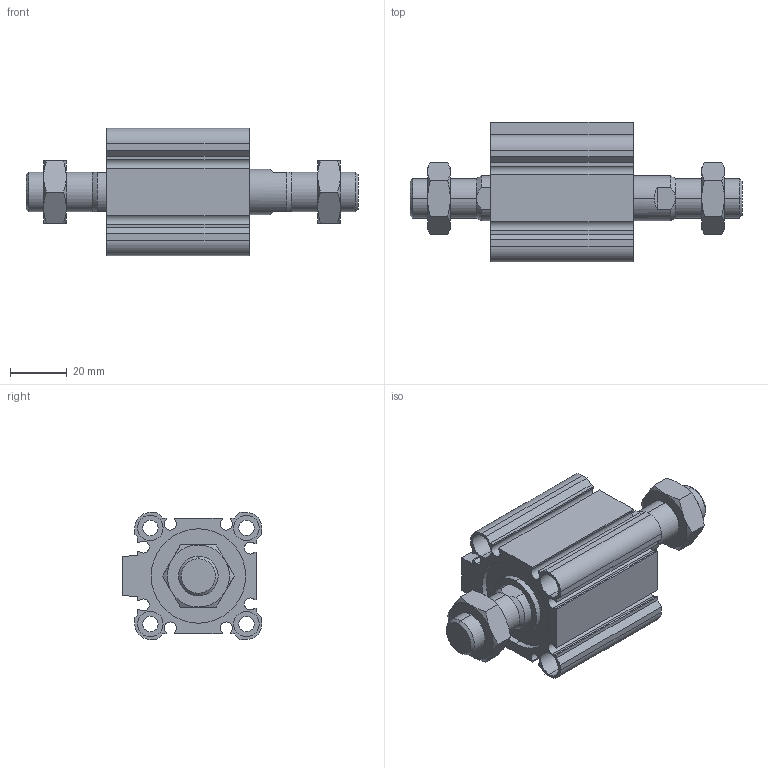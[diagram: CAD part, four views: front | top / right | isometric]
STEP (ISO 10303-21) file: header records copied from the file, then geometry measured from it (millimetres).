
FILE_DESCRIPTION (( 'STEP AP203' ), '1' );
FILE_NAME ('CCMB32-10M-P.STEP', '2020-08-10T11:31:25', ( '' ), ( '' ), 'SwSTEP 2.0', 'SolidWorks 2019', '' );
FILE_SCHEMA (( 'CONFIG_CONTROL_DESIGN' ));
Length unit declared in the file: millimetre
Products named in the file (1): CCMB32-10M-P
Bounding box: 117.5 x 49.5 x 45 mm (x, y, z)
Volume: 88937.1 mm3; surface area: 37117.2 mm2
Topology: 4 solids, 4 shells, 216 faces, 522 edges, 332 vertices
Faces by surface type: plane 94, cylinder 78, cone 44
Entity records: 7009 total; most frequent: CARTESIAN_POINT 1819, DIRECTION 1088, ORIENTED_EDGE 1044, EDGE_CURVE 522, AXIS2_PLACEMENT_3D 413, VERTEX_POINT 332, VECTOR 262, LINE 262
